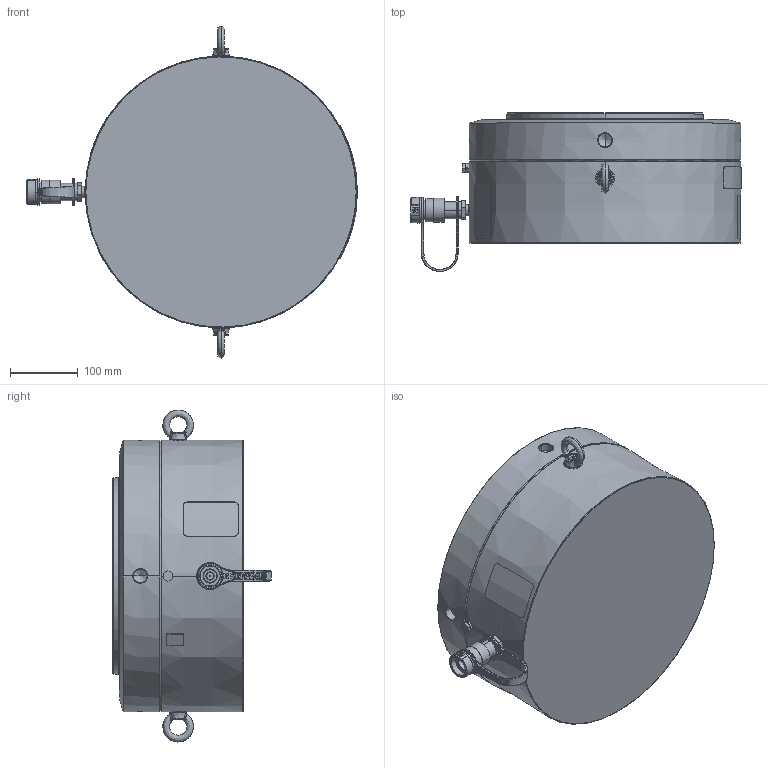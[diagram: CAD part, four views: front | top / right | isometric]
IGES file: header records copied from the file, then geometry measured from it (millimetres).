
Start section:  PTC IGES file: lpl5002.igs
Global section: file name: lpl5002.igs; native system: Creo Parametric by PTC Inc.; preprocessor: 2015290; author: Akhilesh.Subrahmanya; organization: Unknown; date: 20170720.134614; units: millimetre
Bounding box: 486.96 x 233.75 x 488.9 mm (x, y, z)
Surface area: 732411.4 mm2 (no closed solid volume)
Topology: 0 solids, 0 shells, 491 faces, 2719 edges, 2707 vertices
Faces by surface type: bspline 251, revolution 230, extrusion 10
